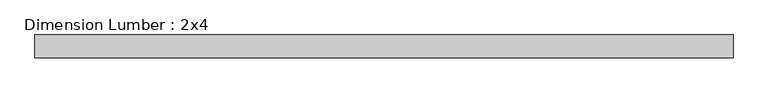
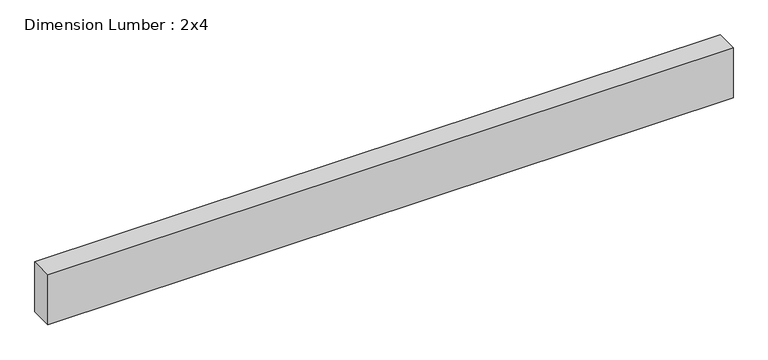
"""IFC4 building model written with IfcOpenShell, lengths in millimetres: beam geometry, Dimension Lumber : 2x4."""

from ifc_helpers import new_model, si_unit, frame, origin, place, context, project, spatial, polyline, outline, extrude, source, transform, mapped, element, save


def dimension_lumber_2x4_a7507db0(model_context):
    return source(origin(), model_context, "Body", "SweptSolid", [
        extrude(outline(polyline([(587.3749994, 19.05), (587.3749994, -19.05), (-568.325, -19.05), (-568.325, 19.05), (587.3749994, 19.05)])), frame((0.0, 0.0, -44.45), z_axis=(0.0, 0.0, 1.0), x_axis=(1.0, 0.0, 0.0)), (0.0, 0.0, 1.0), 88.9),
    ])


if __name__ == "__main__":
    model = new_model("IFC4")
    model_context = context("Model", 3, world=origin())
    ifc_project = project(units=[si_unit("LENGTHUNIT", "METRE", prefix="MILLI")], contexts=[model_context])
    site = spatial("IfcSite", under=ifc_project)
    building = spatial("IfcBuilding", under=site)
    placement = place(None, origin())
    dimension_lumber_2x4_shape = dimension_lumber_2x4_a7507db0(model_context)
    element("IfcBeam", 1, ObjectType="Dimension Lumber : 2x4", at=placement, inside=building, context=model_context, shape_type="MappedRepresentation", body=[
        mapped(dimension_lumber_2x4_shape, transform((0.0, 0.0, 0.0), x_axis=(1.0, 0.0, 0.0), y_axis=(0.0, 1.0, 0.0), z_axis=(0.0, 0.0, 1.0))),
    ])
    save(model, "model.ifc")
